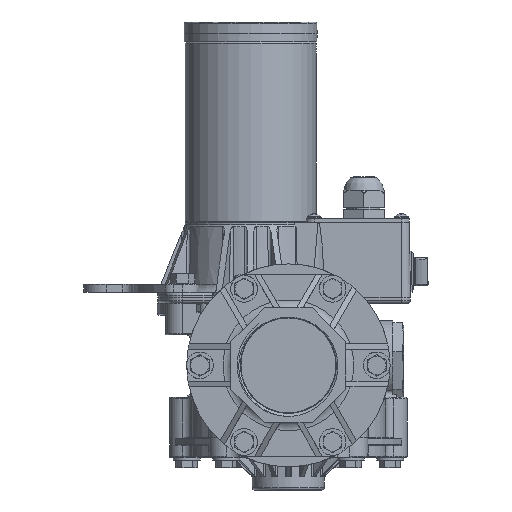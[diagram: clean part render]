
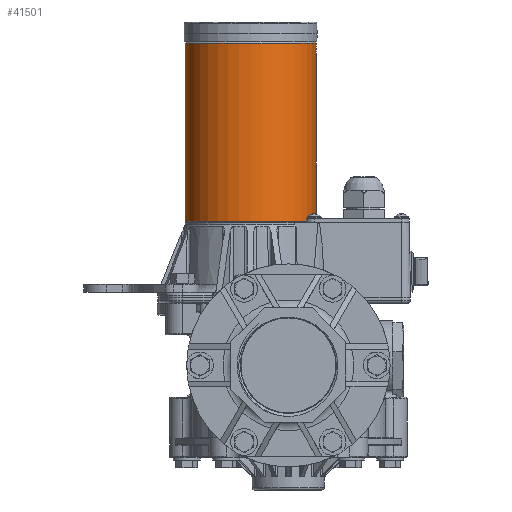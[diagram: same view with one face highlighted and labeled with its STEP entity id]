
A CAD part, front view. The second image highlights one B-rep face of the part: STEP entity #41501.
In plain terms, the highlighted cylindrical face has radius 38.976 mm (diameter 77.953 mm), a full revolution.
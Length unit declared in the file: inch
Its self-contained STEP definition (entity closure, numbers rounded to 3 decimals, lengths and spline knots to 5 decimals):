
#452=ELLIPSE('',#44282,4.48658,1.5345);
#453=ELLIPSE('',#44288,4.48658,1.5345);
#2575=CYLINDRICAL_SURFACE('',#44281,1.5345);
#3300=CIRCLE('',#44279,1.5345);
#3302=CIRCLE('',#44283,1.5345);
#3303=CIRCLE('',#44284,1.5345);
#3304=CIRCLE('',#44285,1.5345);
#3305=CIRCLE('',#44286,1.5345);
#3306=CIRCLE('',#44287,1.5345);
#4732=FACE_OUTER_BOUND('',#7111,.T.);
#7111=EDGE_LOOP('',(#27821,#27822,#27823,#27824,#27825,#27826,#27827,#27828,
#27829,#27830,#27831,#27832,#27833,#27834));
#9595=LINE('',#67697,#12792);
#9596=LINE('',#67703,#12793);
#9597=LINE('',#67707,#12794);
#9598=LINE('',#67712,#12795);
#12792=VECTOR('',#49042,1.5345);
#12793=VECTOR('',#49047,0.3937);
#12794=VECTOR('',#49050,1.5345);
#12795=VECTOR('',#49055,0.3937);
#16337=VERTEX_POINT('',#67690);
#16339=VERTEX_POINT('',#67696);
#16340=VERTEX_POINT('',#67698);
#16341=VERTEX_POINT('',#67700);
#16342=VERTEX_POINT('',#67702);
#16343=VERTEX_POINT('',#67704);
#16344=VERTEX_POINT('',#67706);
#16345=VERTEX_POINT('',#67709);
#16346=VERTEX_POINT('',#67711);
#16347=VERTEX_POINT('',#67713);
#20662=EDGE_CURVE('',#16337,#16337,#3300,.T.);
#20665=EDGE_CURVE('',#16337,#16339,#9595,.T.);
#20666=EDGE_CURVE('',#16339,#16340,#452,.T.);
#20667=EDGE_CURVE('',#16340,#16341,#3302,.T.);
#20668=EDGE_CURVE('',#16341,#16342,#9596,.T.);
#20669=EDGE_CURVE('',#16342,#16343,#3303,.T.);
#20670=EDGE_CURVE('',#16343,#16344,#9597,.T.);
#20671=EDGE_CURVE('',#16344,#16344,#3304,.T.);
#20672=EDGE_CURVE('',#16343,#16345,#3305,.T.);
#20673=EDGE_CURVE('',#16345,#16346,#9598,.T.);
#20674=EDGE_CURVE('',#16346,#16347,#3306,.T.);
#20675=EDGE_CURVE('',#16347,#16339,#453,.T.);
#27821=ORIENTED_EDGE('',*,*,#20662,.F.);
#27822=ORIENTED_EDGE('',*,*,#20665,.T.);
#27823=ORIENTED_EDGE('',*,*,#20666,.T.);
#27824=ORIENTED_EDGE('',*,*,#20667,.T.);
#27825=ORIENTED_EDGE('',*,*,#20668,.T.);
#27826=ORIENTED_EDGE('',*,*,#20669,.T.);
#27827=ORIENTED_EDGE('',*,*,#20670,.T.);
#27828=ORIENTED_EDGE('',*,*,#20671,.F.);
#27829=ORIENTED_EDGE('',*,*,#20670,.F.);
#27830=ORIENTED_EDGE('',*,*,#20672,.T.);
#27831=ORIENTED_EDGE('',*,*,#20673,.T.);
#27832=ORIENTED_EDGE('',*,*,#20674,.T.);
#27833=ORIENTED_EDGE('',*,*,#20675,.T.);
#27834=ORIENTED_EDGE('',*,*,#20665,.F.);
#41501=ADVANCED_FACE('',(#4732),#2575,.T.);
#44279=AXIS2_PLACEMENT_3D('',#67691,#49035,#49036);
#44281=AXIS2_PLACEMENT_3D('',#67695,#49040,#49041);
#44282=AXIS2_PLACEMENT_3D('',#67699,#49043,#49044);
#44283=AXIS2_PLACEMENT_3D('',#67701,#49045,#49046);
#44284=AXIS2_PLACEMENT_3D('',#67705,#49048,#49049);
#44285=AXIS2_PLACEMENT_3D('',#67708,#49051,#49052);
#44286=AXIS2_PLACEMENT_3D('',#67710,#49053,#49054);
#44287=AXIS2_PLACEMENT_3D('',#67714,#49056,#49057);
#44288=AXIS2_PLACEMENT_3D('',#67715,#49058,#49059);
#49035=DIRECTION('center_axis',(0.,0.,1.));
#49036=DIRECTION('ref_axis',(-1.,0.,0.));
#49040=DIRECTION('center_axis',(0.,0.,1.));
#49041=DIRECTION('ref_axis',(-1.,0.,0.));
#49042=DIRECTION('',(0.,0.,-1.));
#49043=DIRECTION('center_axis',(0.,0.94,0.342));
#49044=DIRECTION('ref_axis',(0.,-0.342,0.94));
#49045=DIRECTION('center_axis',(0.,0.,-1.));
#49046=DIRECTION('ref_axis',(-1.,0.,0.));
#49047=DIRECTION('',(0.,0.,-1.));
#49048=DIRECTION('center_axis',(0.,0.,-1.));
#49049=DIRECTION('ref_axis',(-1.,0.,0.));
#49050=DIRECTION('',(0.,0.,-1.));
#49051=DIRECTION('center_axis',(0.,0.,-1.));
#49052=DIRECTION('ref_axis',(-1.,0.,0.));
#49053=DIRECTION('center_axis',(0.,0.,-1.));
#49054=DIRECTION('ref_axis',(-1.,0.,0.));
#49055=DIRECTION('',(0.,0.,1.));
#49056=DIRECTION('center_axis',(0.,0.,-1.));
#49057=DIRECTION('ref_axis',(-1.,0.,0.));
#49058=DIRECTION('center_axis',(0.,-0.94,0.342));
#49059=DIRECTION('ref_axis',(0.,-0.342,-0.94));
#67690=CARTESIAN_POINT('',(1.5345,0.,4.195));
#67691=CARTESIAN_POINT('Origin',(0.,0.,4.195));
#67695=CARTESIAN_POINT('Origin',(0.,0.,0.));
#67696=CARTESIAN_POINT('',(1.5345,0.,4.125));
#67697=CARTESIAN_POINT('',(1.5345,0.,0.));
#67698=CARTESIAN_POINT('',(1.53315,0.06442,3.948));
#67699=CARTESIAN_POINT('Origin',(0.,0.,4.125));
#67700=CARTESIAN_POINT('',(1.53443,0.015,3.948));
#67701=CARTESIAN_POINT('Origin',(0.,0.,3.948));
#67702=CARTESIAN_POINT('',(1.53443,0.015,0.1));
#67703=CARTESIAN_POINT('',(1.53443,0.015,0.));
#67704=CARTESIAN_POINT('',(1.5345,0.,0.1));
#67705=CARTESIAN_POINT('Origin',(0.,0.,0.1));
#67706=CARTESIAN_POINT('',(1.5345,0.,0.03));
#67707=CARTESIAN_POINT('',(1.5345,0.,0.));
#67708=CARTESIAN_POINT('Origin',(0.,0.,0.03));
#67709=CARTESIAN_POINT('',(1.53443,-0.015,0.1));
#67710=CARTESIAN_POINT('Origin',(0.,0.,0.1));
#67711=CARTESIAN_POINT('',(1.53443,-0.015,3.948));
#67712=CARTESIAN_POINT('',(1.53443,-0.015,0.));
#67713=CARTESIAN_POINT('',(1.53315,-0.06442,3.948));
#67714=CARTESIAN_POINT('Origin',(0.,0.,3.948));
#67715=CARTESIAN_POINT('Origin',(0.,0.,4.125));
